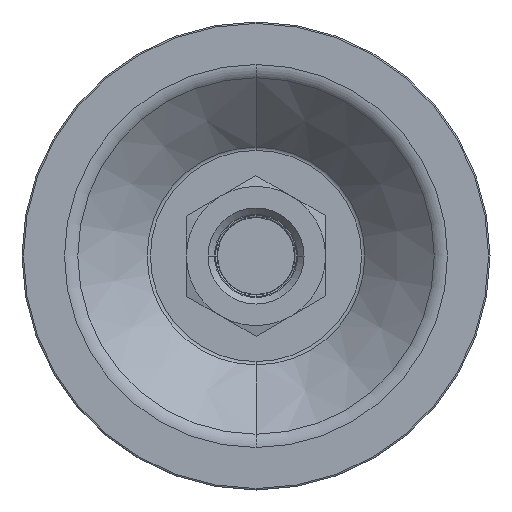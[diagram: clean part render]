
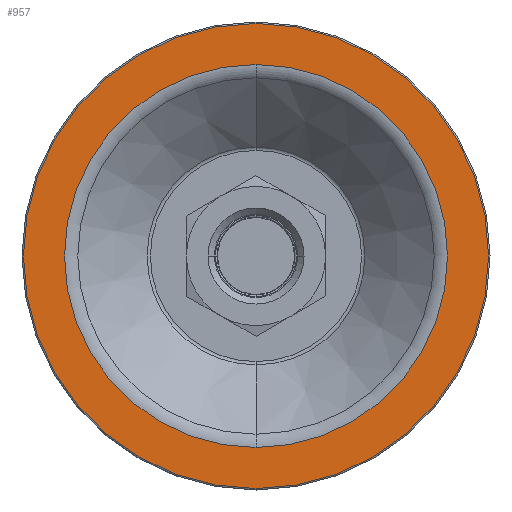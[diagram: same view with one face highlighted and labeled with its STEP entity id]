
A CAD part, front view. The second image highlights one B-rep face of the part: STEP entity #957.
In plain terms, the highlighted planar face has unit normal (0, -1, 0).
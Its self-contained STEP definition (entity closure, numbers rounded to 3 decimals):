
#3 = CARTESIAN_POINT ( 'NONE',  ( 0., 0., 39.901 ) ) ;
#430 = DIRECTION ( 'NONE',  ( 0., 0., 1. ) ) ;
#787 = EDGE_CURVE ( 'NONE', #7559, #8262, #4999, .T. ) ;
#957 = ADVANCED_FACE ( 'NONE', ( #2859, #4188 ), #2423, .F. ) ;
#1058 = AXIS2_PLACEMENT_3D ( 'NONE', #6807, #3562, #4235 ) ;
#1259 = ORIENTED_EDGE ( 'NONE', *, *, #8118, .T. ) ;
#1461 = EDGE_CURVE ( 'NONE', #8262, #7559, #5616, .T. ) ;
#1693 = DIRECTION ( 'NONE',  ( 0., 0., 1. ) ) ;
#2161 = DIRECTION ( 'NONE',  ( 0., 1., 0. ) ) ;
#2394 = DIRECTION ( 'NONE',  ( 0., -1., 0. ) ) ;
#2423 = PLANE ( 'NONE',  #4916 ) ;
#2559 = AXIS2_PLACEMENT_3D ( 'NONE', #3091, #7681, #3120 ) ;
#2859 = FACE_OUTER_BOUND ( 'NONE', #6078, .T. ) ;
#3091 = CARTESIAN_POINT ( 'NONE',  ( 0., 0., 0. ) ) ;
#3120 = DIRECTION ( 'NONE',  ( 0., 0., 1. ) ) ;
#3562 = DIRECTION ( 'NONE',  ( 0., 1., 0. ) ) ;
#3663 = DIRECTION ( 'NONE',  ( 0., 1., 0. ) ) ;
#4188 = FACE_BOUND ( 'NONE', #8037, .T. ) ;
#4235 = DIRECTION ( 'NONE',  ( 0., 0., 1. ) ) ;
#4310 = CIRCLE ( 'NONE', #2559, 48.45 ) ;
#4336 = CARTESIAN_POINT ( 'NONE',  ( 0., 0., 0. ) ) ;
#4916 = AXIS2_PLACEMENT_3D ( 'NONE', #7576, #3663, #430 ) ;
#4999 = CIRCLE ( 'NONE', #7269, 39.901 ) ;
#5432 = CARTESIAN_POINT ( 'NONE',  ( 0., 0., 0. ) ) ;
#5616 = CIRCLE ( 'NONE', #1058, 39.901 ) ;
#5650 = AXIS2_PLACEMENT_3D ( 'NONE', #4336, #2394, #1693 ) ;
#6078 = EDGE_LOOP ( 'NONE', ( #8076, #1259 ) ) ;
#6561 = CIRCLE ( 'NONE', #5650, 48.45 ) ;
#6603 = DIRECTION ( 'NONE',  ( 0., 0., 1. ) ) ;
#6685 = ORIENTED_EDGE ( 'NONE', *, *, #1461, .T. ) ;
#6807 = CARTESIAN_POINT ( 'NONE',  ( 0., 0., 0. ) ) ;
#7144 = ORIENTED_EDGE ( 'NONE', *, *, #787, .T. ) ;
#7269 = AXIS2_PLACEMENT_3D ( 'NONE', #5432, #2161, #6603 ) ;
#7539 = VERTEX_POINT ( 'NONE', #7691 ) ;
#7559 = VERTEX_POINT ( 'NONE', #8079 ) ;
#7576 = CARTESIAN_POINT ( 'NONE',  ( 48.75, 0., 0. ) ) ;
#7681 = DIRECTION ( 'NONE',  ( 0., -1., 0. ) ) ;
#7691 = CARTESIAN_POINT ( 'NONE',  ( 0., 0., 48.45 ) ) ;
#7715 = EDGE_CURVE ( 'NONE', #7539, #8471, #6561, .T. ) ;
#8037 = EDGE_LOOP ( 'NONE', ( #6685, #7144 ) ) ;
#8076 = ORIENTED_EDGE ( 'NONE', *, *, #7715, .T. ) ;
#8079 = CARTESIAN_POINT ( 'NONE',  ( 0., 0., -39.901 ) ) ;
#8118 = EDGE_CURVE ( 'NONE', #8471, #7539, #4310, .T. ) ;
#8262 = VERTEX_POINT ( 'NONE', #3 ) ;
#8303 = CARTESIAN_POINT ( 'NONE',  ( 0., 0., -48.45 ) ) ;
#8471 = VERTEX_POINT ( 'NONE', #8303 ) ;
